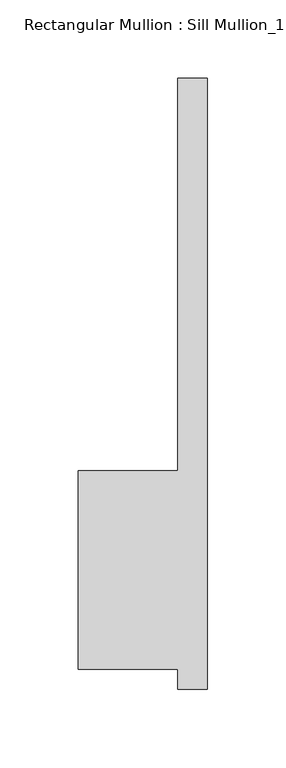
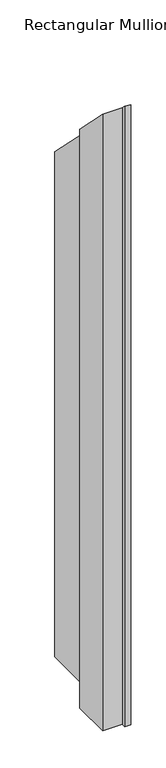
"""IFC4 building model written with IfcOpenShell, lengths in millimetres: member geometry."""

from ifc_helpers import new_model, si_unit, origin, place, context, project, spatial, faceted_brep, source, transform, mapped, element, save


def member_de4b83e2(model_context):
    return source(origin(), model_context, "Body", "Brep", [
        faceted_brep([(-82.55, 50.8, -2020.3583333), (-19.05, 50.8, -2020.3583333), (-19.05, 301.625, -2020.3583333), (0.0, 301.625, -2020.3583333), (0.0, -88.9, -2020.3583333), (-19.05, -88.9, -2020.3583333), (-19.05, -76.2, -2020.3583333), (-82.55, -76.2, -2020.3583333), (-82.55, -76.2, 76.2), (-82.55, 50.8, -50.8), (-19.05, -76.2, 76.2), (-19.05, -88.9, 88.9), (0.0, -88.9, 88.9), (0.0, 301.625, -301.625), (-19.05, 301.625, -301.625), (-19.05, 50.8, -50.8)], [[[0, 1, 2, 3, 4, 5, 6, 7]], [[8, 9, 0, 7]], [[10, 8, 7, 6]], [[11, 10, 6, 5]], [[12, 11, 5, 4]], [[13, 12, 4, 3]], [[14, 13, 3, 2]], [[15, 14, 2, 1]], [[9, 15, 1, 0]], [[9, 8, 10, 11, 12, 13, 14, 15]]]),
    ])


if __name__ == "__main__":
    model = new_model("IFC4")
    model_context = context("Model", 3, world=origin())
    ifc_project = project(units=[si_unit("LENGTHUNIT", "METRE", prefix="MILLI")], contexts=[model_context])
    site = spatial("IfcSite", under=ifc_project)
    building = spatial("IfcBuilding", under=site)
    placement = place(None, origin())
    member_shape = member_de4b83e2(model_context)
    element("IfcMember", 1, ObjectType="Rectangular Mullion : Sill Mullion_15\" thick wall", at=placement, inside=building, context=model_context, shape_type="MappedRepresentation", body=[
        mapped(member_shape, transform((0.0, 0.0, 0.0), x_axis=(1.0, 0.0, 0.0), y_axis=(0.0, 1.0, 0.0), z_axis=(0.0, 0.0, 1.0))),
    ])
    save(model, "model.ifc")
